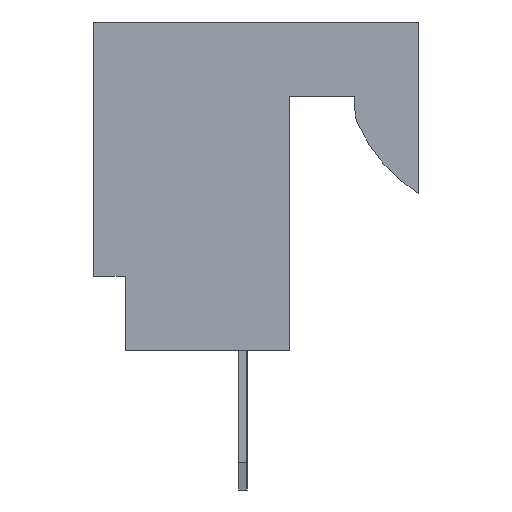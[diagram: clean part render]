
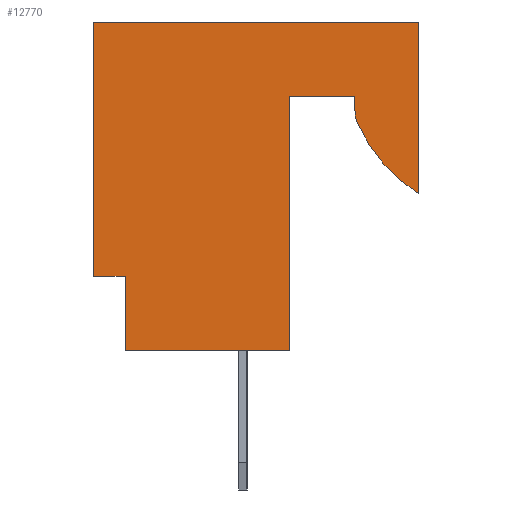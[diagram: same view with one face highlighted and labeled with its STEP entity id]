
A CAD part, left-side view. The second image highlights one B-rep face of the part: STEP entity #12770.
In plain terms, the highlighted planar face has unit normal (-1, 0, 0).
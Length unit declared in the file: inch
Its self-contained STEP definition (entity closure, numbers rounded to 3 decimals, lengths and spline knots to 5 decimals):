
#1=DIRECTION('',(0.,0.,-1.));
#2=VECTOR('',#1,0.16208);
#3=CARTESIAN_POINT('',(-0.998,0.,0.));
#4=LINE('',#3,#2);
#5=CARTESIAN_POINT('',(-0.998,-0.0797,-0.035));
#6=DIRECTION('',(1.,0.,0.));
#7=DIRECTION('',(0.,0.531,-0.847));
#8=AXIS2_PLACEMENT_3D('',#5,#6,#7);
#10=CARTESIAN_POINT('',(-0.998,0.03,-0.08365));
#11=DIRECTION('',(1.,0.,0.));
#12=DIRECTION('',(0.,0.914,-0.405));
#13=AXIS2_PLACEMENT_3D('',#10,#11,#12);
#15=DIRECTION('',(0.,0.,1.));
#16=VECTOR('',#15,0.01365);
#17=CARTESIAN_POINT('',(-0.998,0.06,-0.08365));
#18=LINE('',#17,#16);
#19=DIRECTION('',(0.,1.,0.));
#20=VECTOR('',#19,0.062);
#21=CARTESIAN_POINT('',(-0.998,0.06,-0.07));
#22=LINE('',#21,#20);
#23=DIRECTION('',(0.,0.,-1.));
#24=VECTOR('',#23,0.24);
#25=CARTESIAN_POINT('',(-0.998,0.122,-0.07));
#26=LINE('',#25,#24);
#27=DIRECTION('',(0.,1.,0.));
#28=VECTOR('',#27,0.155);
#29=CARTESIAN_POINT('',(-0.998,0.122,-0.31));
#30=LINE('',#29,#28);
#31=DIRECTION('',(0.,0.,1.));
#32=VECTOR('',#31,0.07);
#33=CARTESIAN_POINT('',(-0.998,0.277,-0.31));
#34=LINE('',#33,#32);
#35=DIRECTION('',(0.,1.,0.));
#36=VECTOR('',#35,0.03);
#37=CARTESIAN_POINT('',(-0.998,0.277,-0.24));
#38=LINE('',#37,#36);
#39=DIRECTION('',(0.,0.,1.));
#40=VECTOR('',#39,0.24);
#41=CARTESIAN_POINT('',(-0.998,0.307,-0.24));
#42=LINE('',#41,#40);
#43=DIRECTION('',(0.,-1.,0.));
#44=VECTOR('',#43,0.307);
#45=CARTESIAN_POINT('',(-0.998,0.307,0.));
#46=LINE('',#45,#44);
#9689=CARTESIAN_POINT('',(-0.998,0.,0.));
#9690=CARTESIAN_POINT('',(-0.998,0.,-0.16208));
#9691=VERTEX_POINT('',#9689);
#9692=VERTEX_POINT('',#9690);
#9693=CARTESIAN_POINT('',(-0.998,0.06,-0.07));
#9694=CARTESIAN_POINT('',(-0.998,0.122,-0.07));
#9695=VERTEX_POINT('',#9693);
#9696=VERTEX_POINT('',#9694);
#9697=CARTESIAN_POINT('',(-0.998,0.122,-0.31));
#9698=VERTEX_POINT('',#9697);
#9699=CARTESIAN_POINT('',(-0.998,0.277,-0.31));
#9700=VERTEX_POINT('',#9699);
#9701=CARTESIAN_POINT('',(-0.998,0.277,-0.24));
#9702=VERTEX_POINT('',#9701);
#9703=CARTESIAN_POINT('',(-0.998,0.307,-0.24));
#9704=VERTEX_POINT('',#9703);
#9705=CARTESIAN_POINT('',(-0.998,0.307,0.));
#9706=VERTEX_POINT('',#9705);
#9873=CARTESIAN_POINT('',(-0.998,0.05742,-0.09581));
#9874=VERTEX_POINT('',#9873);
#9875=CARTESIAN_POINT('',(-0.998,0.06,-0.08365));
#9876=VERTEX_POINT('',#9875);
#12741=CARTESIAN_POINT('',(-0.998,0.,0.));
#12742=DIRECTION('',(1.,0.,0.));
#12743=DIRECTION('',(0.,0.,-1.));
#12744=AXIS2_PLACEMENT_3D('',#12741,#12742,#12743);
#12745=PLANE('',#12744);
#12747=ORIENTED_EDGE('',*,*,#12746,.T.);
#12749=ORIENTED_EDGE('',*,*,#12748,.T.);
#12751=ORIENTED_EDGE('',*,*,#12750,.T.);
#12753=ORIENTED_EDGE('',*,*,#12752,.T.);
#12755=ORIENTED_EDGE('',*,*,#12754,.T.);
#12757=ORIENTED_EDGE('',*,*,#12756,.T.);
#12759=ORIENTED_EDGE('',*,*,#12758,.T.);
#12761=ORIENTED_EDGE('',*,*,#12760,.T.);
#12763=ORIENTED_EDGE('',*,*,#12762,.T.);
#12765=ORIENTED_EDGE('',*,*,#12764,.T.);
#12767=ORIENTED_EDGE('',*,*,#12766,.T.);
#12768=EDGE_LOOP('',(#12747,#12749,#12751,#12753,#12755,#12757,#12759,#12761,
#12763,#12765,#12767));
#12769=FACE_OUTER_BOUND('',#12768,.F.);
#12770=ADVANCED_FACE('',(#12769),#12745,.F.);
#9=CIRCLE('',#8,0.15);
#14=CIRCLE('',#13,0.03);
#12746=EDGE_CURVE('',#9691,#9692,#4,.T.);
#12748=EDGE_CURVE('',#9692,#9874,#9,.T.);
#12750=EDGE_CURVE('',#9874,#9876,#14,.T.);
#12752=EDGE_CURVE('',#9876,#9695,#18,.T.);
#12754=EDGE_CURVE('',#9695,#9696,#22,.T.);
#12756=EDGE_CURVE('',#9696,#9698,#26,.T.);
#12758=EDGE_CURVE('',#9698,#9700,#30,.T.);
#12760=EDGE_CURVE('',#9700,#9702,#34,.T.);
#12762=EDGE_CURVE('',#9702,#9704,#38,.T.);
#12764=EDGE_CURVE('',#9704,#9706,#42,.T.);
#12766=EDGE_CURVE('',#9706,#9691,#46,.T.);
